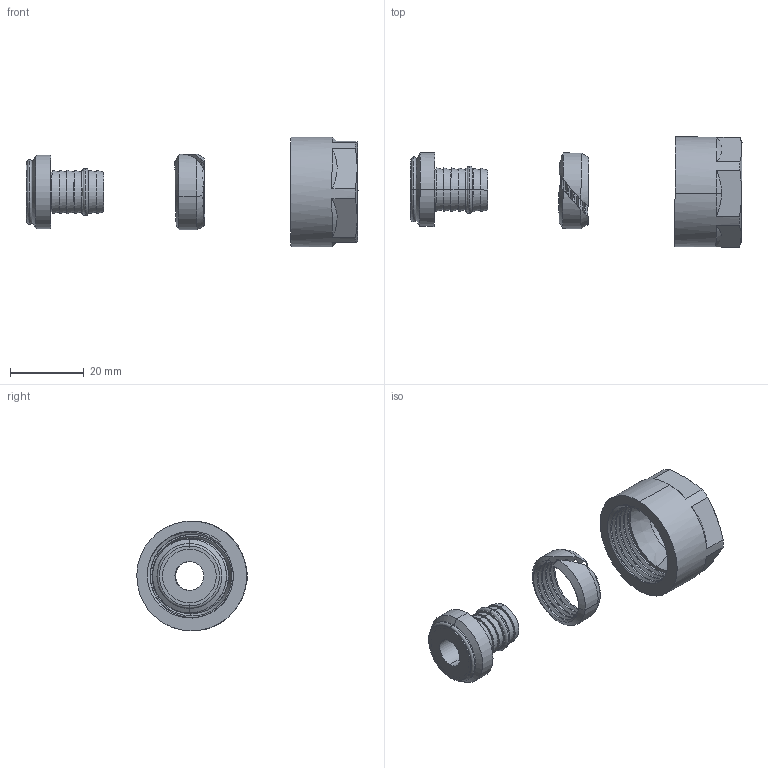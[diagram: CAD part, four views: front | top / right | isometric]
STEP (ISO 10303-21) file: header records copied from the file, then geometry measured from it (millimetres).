
FILE_DESCRIPTION (( 'STEP AP214' ), '1' );
FILE_NAME ('Z³¹czka_zaciskowa_uniwersalna_81277_0_3D_AFRISO.STEP', '2024-04-02T08:03:07', ( '' ), ( '' ), 'SwSTEP 2.0', 'SolidWorks 2022', '' );
FILE_SCHEMA (( 'AUTOMOTIVE_DESIGN' ));
Length unit declared in the file: millimetre
Products named in the file (4): ring; Złączka_zaciskowa_uniwersalna_81277_0_3D_AFRISO; ek; nakretka
Assembly tree (3 placements, depth 2):
  Złączka_zaciskowa_uniwersalna_81277_0_3D_AFRISO
    ek
    nakretka
    ring
Bounding box: 89.87 x 29.9 x 29.75 mm (x, y, z)
Volume: 8937.7 mm3; surface area: 8211.5 mm2
Topology: 11 solids, 11 shells, 159 faces, 377 edges, 242 vertices
Faces by surface type: cylinder 57, cone 41, plane 32, bspline 21, torus 8
Entity records: 11891 total; most frequent: CARTESIAN_POINT 7700, ORIENTED_EDGE 754, DIRECTION 660, EDGE_CURVE 377, AXIS2_PLACEMENT_3D 285, VERTEX_POINT 242, EDGE_LOOP 181, FACE_OUTER_BOUND 159
